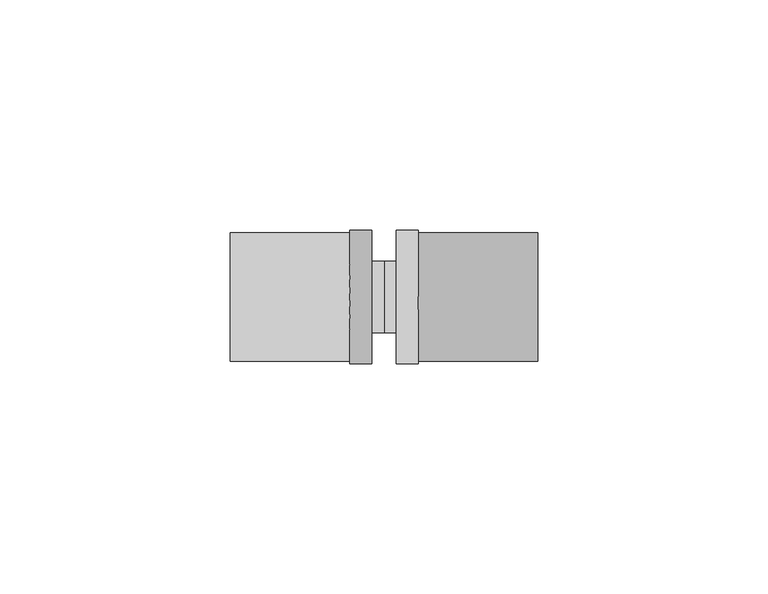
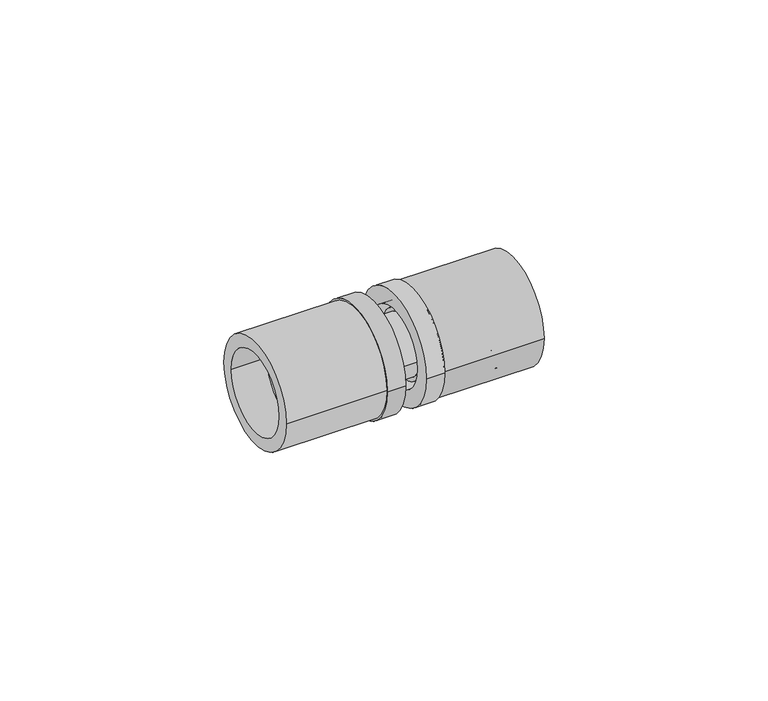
"""IFC4 building model written with IfcOpenShell, lengths in millimetres: pipe fitting geometry, FASTLOC_Coupling equal LX : FSL C LX CZ."""

from ifc_helpers import new_model, si_unit, point, frame, origin, origin_2d, place, context, project, spatial, polyline, circle_curve, trimmed, segment, composite_curve, outline, extrude, source, transform, mapped, element, save
from ifc_brep_helpers import plane_surface, cylinder_surface, revolved_surface, advanced_brep


def pipe_fitting_1d22680d(model_context):
    return source(origin(), model_context, "Body", "SolidModel", [
        extrude(outline(composite_curve([segment(trimmed(circle_curve(origin_2d(), 14.0), [point((-14.0, 0.0))], [point((14.0, 0.0))], False, "CARTESIAN"), True, "CONTINUOUS"), segment(trimmed(circle_curve(origin_2d(), 14.0), [point((14.0, 0.0))], [point((-14.0, 0.0))], False, "CARTESIAN"), True, "CONTINUOUS")], self_intersect=False), holes=[composite_curve([segment(trimmed(circle_curve(origin_2d(), 10.7), [point((-10.7, 0.0))], [point((10.7, 0.0))], True, "CARTESIAN"), True, "CONTINUOUS"), segment(trimmed(circle_curve(origin_2d(), 10.7), [point((10.7, 0.0))], [point((-10.7, 0.0))], True, "CARTESIAN"), True, "CONTINUOUS")], self_intersect=False)]), frame((7.4, 0.0, 0.0), z_axis=(1.0, 0.0, 0.0), x_axis=(0.0, 1.0, 0.0)), (0.0, 0.0, 1.0), 26.0),
        advanced_brep(
        [(7.4, 14.5, 0.0), (7.4, -14.5, 0.0), (2.7, -14.5, 0.0), (2.7, 14.5, 0.0), (24.4, 11.85, 0.0), (24.4, -11.85, 0.0), (7.4, -11.85, 0.0), (7.4, 11.85, 0.0), (2.7, 10.15, 0.0), (2.7, -10.15, 0.0), (24.4, -10.15, 0.0), (24.4, 10.15, 0.0)],
        [
            (0, 1, circle_curve(frame((7.4, 0.0, 0.0), z_axis=(-1.0, 0.0, 0.0), x_axis=(0.0, -1.0, 0.0)), 14.5)),
            (1, 2),
            (2, 3, circle_curve(frame((2.7, 0.0, 0.0), z_axis=(1.0, 0.0, 0.0), x_axis=(0.0, -1.0, 0.0)), 14.5)),
            (3, 0),
            (4, 5, circle_curve(frame((24.4, 0.0, 0.0), z_axis=(-1.0, 0.0, 0.0), x_axis=(0.0, -1.0, 0.0)), 11.85)),
            (5, 6),
            (6, 7, circle_curve(frame((7.4, 0.0, 0.0), z_axis=(1.0, 0.0, 0.0), x_axis=(0.0, -1.0, 0.0)), 11.85)),
            (7, 4),
            (8, 9, circle_curve(frame((2.7, 0.0, 0.0), z_axis=(-1.0, 0.0, 0.0), x_axis=(0.0, -1.0, 0.0)), 10.15)),
            (9, 10),
            (10, 11, circle_curve(frame((24.4, 0.0, 0.0), z_axis=(1.0, 0.0, 0.0), x_axis=(0.0, -1.0, 0.0)), 10.15)),
            (11, 8),
            (1, 0, circle_curve(frame((7.4, 0.0, 0.0), z_axis=(-1.0, 0.0, 0.0), x_axis=(0.0, 1.0, 0.0)), 14.5)),
            (3, 2, circle_curve(frame((2.7, 0.0, 0.0), z_axis=(1.0, 0.0, 0.0), x_axis=(0.0, 1.0, 0.0)), 14.5)),
            (6, 7, circle_curve(frame((7.4, 0.0, 0.0), z_axis=(-1.0, 0.0, 0.0), x_axis=(0.0, 1.0, 0.0)), 11.85)),
            (5, 4, circle_curve(frame((24.4, 0.0, 0.0), z_axis=(-1.0, 0.0, 0.0), x_axis=(0.0, 1.0, 0.0)), 11.85)),
            (10, 11, circle_curve(frame((24.4, 0.0, 0.0), z_axis=(-1.0, 0.0, 0.0), x_axis=(0.0, 1.0, 0.0)), 10.15)),
            (9, 8, circle_curve(frame((2.7, 0.0, 0.0), z_axis=(-1.0, 0.0, 0.0), x_axis=(0.0, 1.0, 0.0)), 10.15)),
        ],
        [
            cylinder_surface(frame((2.7, 0.0, 0.0), z_axis=(1.0, 0.0, 0.0), x_axis=(0.0, -1.0, 0.0)), 14.5),
            cylinder_surface(frame((2.7, 0.0, 0.0), z_axis=(1.0, 0.0, 0.0), x_axis=(0.0, -1.0, 0.0)), 11.85),
            revolved_surface(polyline([(24.4, -10.15, 0.0), (2.7, -10.15, 0.0)]), (2.7, 0.0, 0.0), (1.0, 0.0, 0.0)),
            cylinder_surface(frame((2.7, 0.0, 0.0), z_axis=(1.0, 0.0, 0.0), x_axis=(0.0, 1.0, 0.0)), 14.5),
            plane_surface(frame((7.4, 0.0, 0.0), z_axis=(1.0, 0.0, 0.0), x_axis=(0.0, 1.0, 0.0))),
            cylinder_surface(frame((2.7, 0.0, 0.0), z_axis=(1.0, 0.0, 0.0), x_axis=(0.0, 1.0, 0.0)), 11.85),
            plane_surface(frame((24.4, 0.0, 0.0), z_axis=(1.0, 0.0, 0.0), x_axis=(0.0, 1.0, 0.0))),
            revolved_surface(polyline([(24.4, 10.15, 0.0), (2.7, 10.15, 0.0)]), (2.7, 0.0, 0.0), (1.0, 0.0, 0.0)),
            plane_surface(frame((2.7, 0.0, 0.0), z_axis=(-1.0, 0.0, 0.0), x_axis=(0.0, 1.0, 0.0))),
        ],
        [
            (0, [[1, 2, 3, 4]]),
            (1, [[5, 6, 7, 8]]),
            (2, [[9, 10, 11, 12]]),
            (3, [[13, -4, 14, -2]]),
            (4, [[-13, -1], [15, -7]]),
            (5, [[16, -8, -15, -6]]),
            (6, [[-16, -5], [17, -11]]),
            (7, [[18, -12, -17, -10]]),
            (8, [[-14, -3], [-18, -9]]),
        ],
    ),
        extrude(outline(composite_curve([segment(trimmed(circle_curve(origin_2d(), 14.0), [point((14.0, 0.0))], [point((-14.0, 0.0))], False, "CARTESIAN"), True, "CONTINUOUS"), segment(trimmed(circle_curve(origin_2d(), 14.0), [point((-14.0, 0.0))], [point((14.0, 0.0))], False, "CARTESIAN"), True, "CONTINUOUS")], self_intersect=False), holes=[composite_curve([segment(trimmed(circle_curve(origin_2d(), 10.7), [point((10.7, 0.0))], [point((-10.7, 0.0))], True, "CARTESIAN"), True, "CONTINUOUS"), segment(trimmed(circle_curve(origin_2d(), 10.7), [point((-10.7, 0.0))], [point((10.7, 0.0))], True, "CARTESIAN"), True, "CONTINUOUS")], self_intersect=False)]), frame((-33.4, 0.0, 0.0), z_axis=(1.0, 0.0, 0.0), x_axis=(0.0, 1.0, 0.0)), (0.0, 0.0, 1.0), 26.0),
        advanced_brep(
        [(-7.4, -14.5, 0.0), (-7.4, 14.5, 0.0), (-2.7, 14.5, 0.0), (-2.7, -14.5, 0.0), (-24.4, -11.85, 0.0), (-24.4, 11.85, 0.0), (-7.4, 11.85, 0.0), (-7.4, -11.85, 0.0), (-2.7, -10.15, 0.0), (-2.7, 10.15, 0.0), (-24.4, 10.15, 0.0), (-24.4, -10.15, 0.0)],
        [
            (0, 1, circle_curve(frame((-7.4, 0.0, 0.0), z_axis=(1.0, 0.0, 0.0), x_axis=(0.0, 1.0, 0.0)), 14.5)),
            (1, 2),
            (2, 3, circle_curve(frame((-2.7, 0.0, 0.0), z_axis=(-1.0, 0.0, 0.0), x_axis=(0.0, 1.0, 0.0)), 14.5)),
            (3, 0),
            (4, 5, circle_curve(frame((-24.4, 0.0, 0.0), z_axis=(1.0, 0.0, 0.0), x_axis=(0.0, 1.0, 0.0)), 11.85)),
            (5, 6),
            (6, 7, circle_curve(frame((-7.4, 0.0, 0.0), z_axis=(-1.0, 0.0, 0.0), x_axis=(0.0, 1.0, 0.0)), 11.85)),
            (7, 4),
            (8, 9, circle_curve(frame((-2.7, 0.0, 0.0), z_axis=(1.0, 0.0, 0.0), x_axis=(0.0, 1.0, 0.0)), 10.15)),
            (9, 10),
            (10, 11, circle_curve(frame((-24.4, 0.0, 0.0), z_axis=(-1.0, 0.0, 0.0), x_axis=(0.0, 1.0, 0.0)), 10.15)),
            (11, 8),
            (1, 0, circle_curve(frame((-7.4, 0.0, 0.0), z_axis=(1.0, 0.0, 0.0), x_axis=(0.0, -1.0, 0.0)), 14.5)),
            (3, 2, circle_curve(frame((-2.7, 0.0, 0.0), z_axis=(-1.0, 0.0, 0.0), x_axis=(0.0, -1.0, 0.0)), 14.5)),
            (6, 7, circle_curve(frame((-7.4, 0.0, 0.0), z_axis=(1.0, 0.0, 0.0), x_axis=(0.0, -1.0, 0.0)), 11.85)),
            (5, 4, circle_curve(frame((-24.4, 0.0, 0.0), z_axis=(1.0, 0.0, 0.0), x_axis=(0.0, -1.0, 0.0)), 11.85)),
            (10, 11, circle_curve(frame((-24.4, 0.0, 0.0), z_axis=(1.0, 0.0, 0.0), x_axis=(0.0, -1.0, 0.0)), 10.15)),
            (9, 8, circle_curve(frame((-2.7, 0.0, 0.0), z_axis=(1.0, 0.0, 0.0), x_axis=(0.0, -1.0, 0.0)), 10.15)),
        ],
        [
            cylinder_surface(frame((-2.7, 0.0, 0.0), z_axis=(-1.0, 0.0, 0.0), x_axis=(0.0, 1.0, 0.0)), 14.5),
            cylinder_surface(frame((-2.7, 0.0, 0.0), z_axis=(-1.0, 0.0, 0.0), x_axis=(0.0, 1.0, 0.0)), 11.85),
            revolved_surface(polyline([(-24.4, 10.15, 0.0), (-2.7, 10.15, 0.0)]), (-2.7, 0.0, 0.0), (-1.0, 0.0, 0.0)),
            cylinder_surface(frame((-2.7, 0.0, 0.0), z_axis=(-1.0, 0.0, 0.0), x_axis=(0.0, -1.0, 0.0)), 14.5),
            plane_surface(frame((-7.4, 0.0, 0.0), z_axis=(-1.0, 0.0, 0.0), x_axis=(0.0, -1.0, 0.0))),
            cylinder_surface(frame((-2.7, 0.0, 0.0), z_axis=(-1.0, 0.0, 0.0), x_axis=(0.0, -1.0, 0.0)), 11.85),
            plane_surface(frame((-24.4, 0.0, 0.0), z_axis=(-1.0, 0.0, 0.0), x_axis=(0.0, -1.0, 0.0))),
            revolved_surface(polyline([(-24.4, -10.15, 0.0), (-2.7, -10.15, 0.0)]), (-2.7, 0.0, 0.0), (-1.0, 0.0, 0.0)),
            plane_surface(frame((-2.7, 0.0, 0.0), z_axis=(1.0, 0.0, 0.0), x_axis=(0.0, -1.0, 0.0))),
        ],
        [
            (0, [[1, 2, 3, 4]]),
            (1, [[5, 6, 7, 8]]),
            (2, [[9, 10, 11, 12]]),
            (3, [[13, -4, 14, -2]]),
            (4, [[-13, -1], [15, -7]]),
            (5, [[16, -8, -15, -6]]),
            (6, [[-16, -5], [17, -11]]),
            (7, [[18, -12, -17, -10]]),
            (8, [[-14, -3], [-18, -9]]),
        ],
    ),
        advanced_brep(
        [(7.4, 8.8, 0.0), (7.4, -8.8, 0.0), (4.7, -8.8, 0.0), (4.7, 8.8, 0.0), (24.8, 7.75, 0.0), (24.8, -7.75, 0.0), (7.4, -7.75, 0.0), (7.4, 7.75, 0.0), (-24.8, 5.75, 0.0), (-24.8, -5.75, 0.0), (24.8, -5.75, 0.0), (24.8, 5.75, 0.0), (-7.4, 7.75, 0.0), (-7.4, -7.75, 0.0), (-24.8, -7.75, 0.0), (-24.8, 7.75, 0.0), (-4.7, 8.8, 0.0), (-4.7, -8.8, 0.0), (-7.4, -8.8, 0.0), (-7.4, 8.8, 0.0), (0.0, 7.75, 0.0), (0.0, -7.75, 0.0), (-4.7, -7.75, 0.0), (-4.7, 7.75, 0.0), (4.7, 7.75, 0.0), (4.7, -7.75, 0.0)],
        [
            (0, 1, circle_curve(frame((7.4, 0.0, 0.0), z_axis=(-1.0, 0.0, 0.0), x_axis=(0.0, -1.0, 0.0)), 8.8)),
            (1, 2),
            (2, 3, circle_curve(frame((4.7, 0.0, 0.0), z_axis=(1.0, 0.0, 0.0), x_axis=(0.0, -1.0, 0.0)), 8.8)),
            (3, 0),
            (4, 5, circle_curve(frame((24.8, 0.0, 0.0), z_axis=(-1.0, 0.0, 0.0), x_axis=(0.0, -1.0, 0.0)), 7.75)),
            (5, 6),
            (6, 7, circle_curve(frame((7.4, 0.0, 0.0), z_axis=(1.0, 0.0, 0.0), x_axis=(0.0, -1.0, 0.0)), 7.75)),
            (7, 4),
            (8, 9, circle_curve(frame((-24.8, 0.0, 0.0), z_axis=(-1.0, 0.0, 0.0), x_axis=(0.0, -1.0, 0.0)), 5.75)),
            (9, 10),
            (10, 11, circle_curve(frame((24.8, 0.0, 0.0), z_axis=(1.0, 0.0, 0.0), x_axis=(0.0, -1.0, 0.0)), 5.75)),
            (11, 8),
            (12, 13, circle_curve(frame((-7.4, 0.0, 0.0), z_axis=(-1.0, 0.0, 0.0), x_axis=(0.0, -1.0, 0.0)), 7.75)),
            (13, 14),
            (14, 15, circle_curve(frame((-24.8, 0.0, 0.0), z_axis=(1.0, 0.0, 0.0), x_axis=(0.0, -1.0, 0.0)), 7.75)),
            (15, 12),
            (16, 17, circle_curve(frame((-4.7, 0.0, 0.0), z_axis=(-1.0, 0.0, 0.0), x_axis=(0.0, -1.0, 0.0)), 8.8)),
            (17, 18),
            (18, 19, circle_curve(frame((-7.4, 0.0, 0.0), z_axis=(1.0, 0.0, 0.0), x_axis=(0.0, -1.0, 0.0)), 8.8)),
            (19, 16),
            (20, 21, circle_curve(frame((0.0, 0.0, 0.0), z_axis=(-1.0, 0.0, 0.0), x_axis=(0.0, -1.0, 0.0)), 7.75)),
            (21, 22),
            (22, 23, circle_curve(frame((-4.7, 0.0, 0.0), z_axis=(1.0, 0.0, 0.0), x_axis=(0.0, -1.0, 0.0)), 7.75)),
            (23, 20),
            (24, 25, circle_curve(frame((4.7, 0.0, 0.0), z_axis=(-1.0, 0.0, 0.0), x_axis=(0.0, -1.0, 0.0)), 7.75)),
            (25, 21),
            (20, 24),
            (1, 0, circle_curve(frame((7.4, 0.0, 0.0), z_axis=(-1.0, 0.0, 0.0), x_axis=(0.0, 1.0, 0.0)), 8.8)),
            (3, 2, circle_curve(frame((4.7, 0.0, 0.0), z_axis=(1.0, 0.0, 0.0), x_axis=(0.0, 1.0, 0.0)), 8.8)),
            (6, 7, circle_curve(frame((7.4, 0.0, 0.0), z_axis=(-1.0, 0.0, 0.0), x_axis=(0.0, 1.0, 0.0)), 7.75)),
            (5, 4, circle_curve(frame((24.8, 0.0, 0.0), z_axis=(-1.0, 0.0, 0.0), x_axis=(0.0, 1.0, 0.0)), 7.75)),
            (10, 11, circle_curve(frame((24.8, 0.0, 0.0), z_axis=(-1.0, 0.0, 0.0), x_axis=(0.0, 1.0, 0.0)), 5.75)),
            (9, 8, circle_curve(frame((-24.8, 0.0, 0.0), z_axis=(-1.0, 0.0, 0.0), x_axis=(0.0, 1.0, 0.0)), 5.75)),
            (14, 15, circle_curve(frame((-24.8, 0.0, 0.0), z_axis=(-1.0, 0.0, 0.0), x_axis=(0.0, 1.0, 0.0)), 7.75)),
            (13, 12, circle_curve(frame((-7.4, 0.0, 0.0), z_axis=(-1.0, 0.0, 0.0), x_axis=(0.0, 1.0, 0.0)), 7.75)),
            (18, 19, circle_curve(frame((-7.4, 0.0, 0.0), z_axis=(-1.0, 0.0, 0.0), x_axis=(0.0, 1.0, 0.0)), 8.8)),
            (17, 16, circle_curve(frame((-4.7, 0.0, 0.0), z_axis=(-1.0, 0.0, 0.0), x_axis=(0.0, 1.0, 0.0)), 8.8)),
            (22, 23, circle_curve(frame((-4.7, 0.0, 0.0), z_axis=(-1.0, 0.0, 0.0), x_axis=(0.0, 1.0, 0.0)), 7.75)),
            (21, 20, circle_curve(frame((0.0, 0.0, 0.0), z_axis=(-1.0, 0.0, 0.0), x_axis=(0.0, 1.0, 0.0)), 7.75)),
            (25, 24, circle_curve(frame((4.7, 0.0, 0.0), z_axis=(-1.0, 0.0, 0.0), x_axis=(0.0, 1.0, 0.0)), 7.75)),
        ],
        [
            cylinder_surface(frame((0.0, 0.0, 0.0), z_axis=(1.0, 0.0, 0.0), x_axis=(0.0, -1.0, 0.0)), 8.8),
            cylinder_surface(frame((0.0, 0.0, 0.0), z_axis=(1.0, 0.0, 0.0), x_axis=(0.0, -1.0, 0.0)), 7.75),
            revolved_surface(polyline([(24.8, -5.75, 0.0), (-24.8, -5.75, 0.0)]), (0.0, 0.0, 0.0), (1.0, 0.0, 0.0)),
            cylinder_surface(frame((0.0, 0.0, 0.0), z_axis=(1.0, 0.0, 0.0), x_axis=(0.0, 1.0, 0.0)), 8.8),
            plane_surface(frame((7.4, 0.0, 0.0), z_axis=(1.0, 0.0, 0.0), x_axis=(0.0, 1.0, 0.0))),
            cylinder_surface(frame((0.0, 0.0, 0.0), z_axis=(1.0, 0.0, 0.0), x_axis=(0.0, 1.0, 0.0)), 7.75),
            plane_surface(frame((24.8, 0.0, 0.0), z_axis=(1.0, 0.0, 0.0), x_axis=(0.0, 1.0, 0.0))),
            revolved_surface(polyline([(24.8, 5.75, 0.0), (-24.8, 5.75, 0.0)]), (0.0, 0.0, 0.0), (1.0, 0.0, 0.0)),
            plane_surface(frame((-24.8, 0.0, 0.0), z_axis=(-1.0, 0.0, 0.0), x_axis=(0.0, 1.0, 0.0))),
            plane_surface(frame((-7.4, 0.0, 0.0), z_axis=(-1.0, 0.0, 0.0), x_axis=(0.0, 1.0, 0.0))),
            plane_surface(frame((-4.7, 0.0, 0.0), z_axis=(1.0, 0.0, 0.0), x_axis=(0.0, 1.0, 0.0))),
            plane_surface(frame((4.7, 0.0, 0.0), z_axis=(-1.0, 0.0, 0.0), x_axis=(0.0, 1.0, 0.0))),
        ],
        [
            (0, [[1, 2, 3, 4]]),
            (1, [[5, 6, 7, 8]]),
            (2, [[9, 10, 11, 12]]),
            (1, [[13, 14, 15, 16]]),
            (0, [[17, 18, 19, 20]]),
            (1, [[21, 22, 23, 24]]),
            (1, [[25, 26, -21, 27]]),
            (3, [[28, -4, 29, -2]]),
            (4, [[-28, -1], [30, -7]]),
            (5, [[31, -8, -30, -6]]),
            (6, [[-31, -5], [32, -11]]),
            (7, [[33, -12, -32, -10]]),
            (8, [[34, -15], [-33, -9]]),
            (5, [[35, -16, -34, -14]]),
            (9, [[36, -19], [-35, -13]]),
            (3, [[37, -20, -36, -18]]),
            (10, [[-37, -17], [38, -23]]),
            (5, [[39, -24, -38, -22]]),
            (5, [[40, -27, -39, -26]]),
            (11, [[-29, -3], [-40, -25]]),
        ],
    ),
    ])


if __name__ == "__main__":
    model = new_model("IFC4")
    model_context = context("Model", 3, world=origin())
    ifc_project = project(units=[si_unit("LENGTHUNIT", "METRE", prefix="MILLI")], contexts=[model_context])
    site = spatial("IfcSite", under=ifc_project)
    building = spatial("IfcBuilding", under=site)
    placement = place(None, origin())
    pipe_fitting_shape = pipe_fitting_1d22680d(model_context)
    element("IfcPipeFitting", 1, ObjectType="FASTLOC_Coupling equal LX : FSL C LX CZ", at=placement, inside=building, context=model_context, shape_type="MappedRepresentation", body=[
        mapped(pipe_fitting_shape, transform((0.0, 0.0, 0.0), x_axis=(1.0, 0.0, 0.0), y_axis=(0.0, 1.0, 0.0), z_axis=(0.0, 0.0, 1.0))),
    ])
    save(model, "model.ifc")
